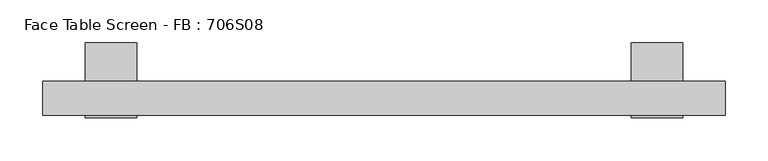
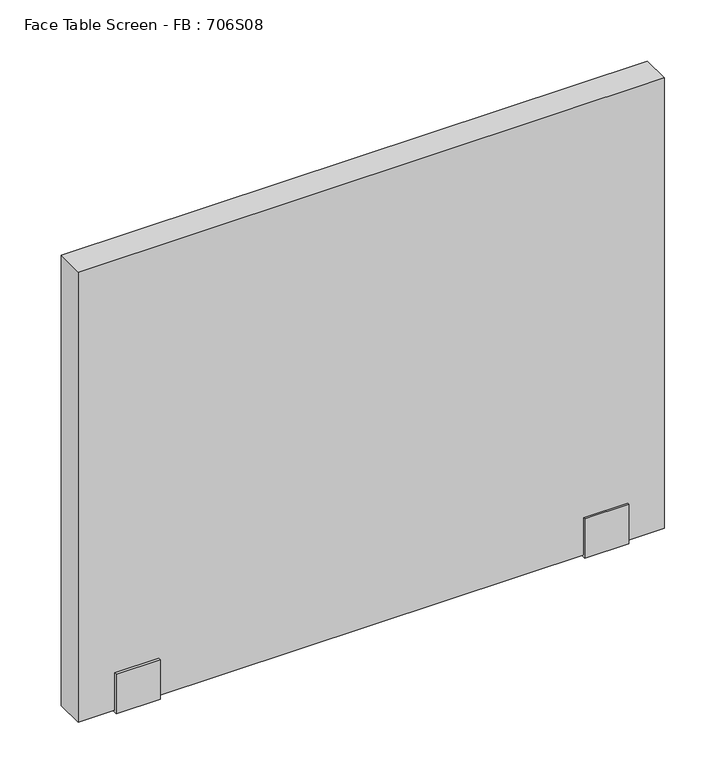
"""IFC4 building model written with IfcOpenShell, lengths in millimetres: furniture geometry, Face Table Screen - FB : 706S08."""

from ifc_helpers import new_model, si_unit, frame, origin, place, context, project, spatial, polyline, outline, extrude, source, transform, mapped, element, save


def face_table_screen_fb_706s08_61d8b406(model_context):
    return source(origin(), model_context, "Body", "SweptSolid", [
        extrude(outline(polyline([(-42.9999947, -256.0), (-42.9999997, -199.0433898), (-40.0, -199.0433898), (-40.0, -253.0), (0.0, -253.0), (0.0, -22.0), (45.0, -22.0), (45.0, -25.0433898), (3.0000062, -25.0433898), (2.9999947, -256.0), (-42.9999947, -256.0)])), frame((309.9863751, 0.0, 0.0), z_axis=(1.0, 0.0, 0.0), x_axis=(0.0, 1.0, 0.0)), (0.0, 0.0, 1.0), 60.0),
        extrude(outline(polyline([(-42.9999947, -256.0), (-42.9999997, -199.0433898), (-40.0, -199.0433898), (-40.0, -253.0), (0.0, -253.0), (0.0, -22.0), (45.0, -22.0), (45.0, -25.0433898), (3.0000062, -25.0433898), (2.9999947, -256.0), (-42.9999947, -256.0)])), frame((-330.0136249, 0.0, 0.0), z_axis=(1.0, 0.0, 0.0), x_axis=(0.0, 1.0, 0.0)), (0.0, 0.0, 1.0), 60.0),
        extrude(outline(polyline([(419.9863751, -40.0), (-380.0136249, -40.0), (-380.0136249, 0.0), (419.9863751, 0.0), (419.9863751, -40.0)])), frame((0.0, 0.0, -253.0), z_axis=(0.0, 0.0, 1.0), x_axis=(1.0, 0.0, 0.0)), (0.0, 0.0, 1.0), 650.0),
    ])


if __name__ == "__main__":
    model = new_model("IFC4")
    model_context = context("Model", 3, world=origin())
    ifc_project = project(units=[si_unit("LENGTHUNIT", "METRE", prefix="MILLI")], contexts=[model_context])
    site = spatial("IfcSite", under=ifc_project)
    building = spatial("IfcBuilding", under=site)
    placement = place(None, origin())
    face_table_screen_fb_706s08_shape = face_table_screen_fb_706s08_61d8b406(model_context)
    element("IfcFurniture", 1, ObjectType="Face Table Screen - FB : 706S08", at=placement, inside=building, context=model_context, shape_type="MappedRepresentation", body=[
        mapped(face_table_screen_fb_706s08_shape, transform((0.0, 0.0, 0.0), x_axis=(1.0, 0.0, 0.0), y_axis=(0.0, 1.0, 0.0), z_axis=(0.0, 0.0, 1.0))),
    ])
    save(model, "model.ifc")
